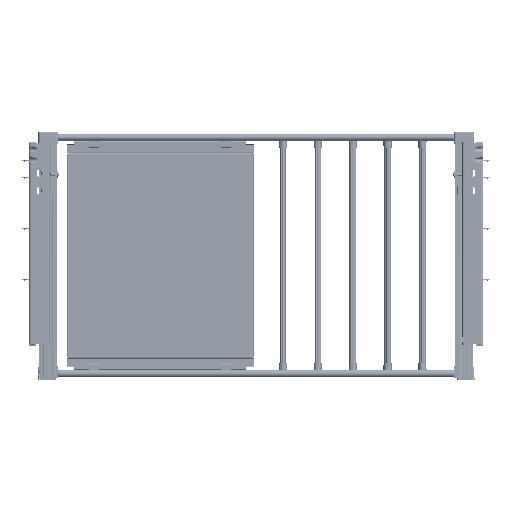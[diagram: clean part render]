
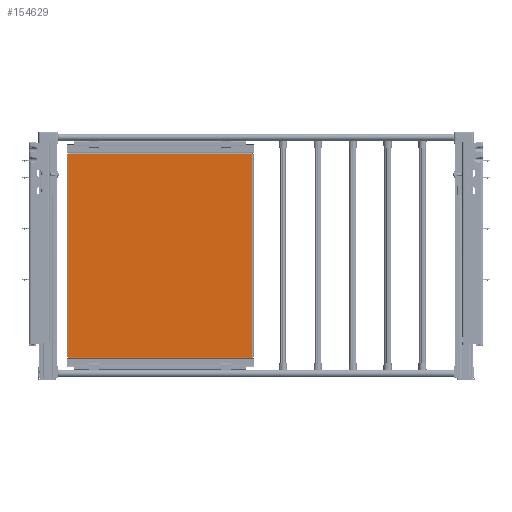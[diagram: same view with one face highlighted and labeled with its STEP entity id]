
A CAD part, front view. The second image highlights one B-rep face of the part: STEP entity #154629.
In plain terms, the highlighted planar face has unit normal (0, -1, 0).
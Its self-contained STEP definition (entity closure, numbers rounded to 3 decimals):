
#2067 = PLANE ( 'NONE',  #54507 ) ;
#15121 = CARTESIAN_POINT ( 'NONE',  ( -192.5, -1., -174.5 ) ) ;
#22617 = VERTEX_POINT ( 'NONE', #191703 ) ;
#24594 = CARTESIAN_POINT ( 'NONE',  ( -192.5, -1., 174.5 ) ) ;
#25075 = EDGE_LOOP ( 'NONE', ( #96345, #124765, #141486, #254619 ) ) ;
#37361 = DIRECTION ( 'NONE',  ( 0., 0., -1. ) ) ;
#53476 = EDGE_CURVE ( 'NONE', #121875, #236076, #53670, .T. ) ;
#53670 = LINE ( 'NONE', #173627, #161560 ) ;
#54507 = AXIS2_PLACEMENT_3D ( 'NONE', #197698, #115614, #37361 ) ;
#61609 = EDGE_CURVE ( 'NONE', #188318, #121875, #113859, .T. ) ;
#63546 = EDGE_CURVE ( 'NONE', #236076, #22617, #192456, .T. ) ;
#66885 = EDGE_CURVE ( 'NONE', #188318, #22617, #107891, .T. ) ;
#69613 = CARTESIAN_POINT ( 'NONE',  ( 192.5, -1., 174.5 ) ) ;
#75543 = VECTOR ( 'NONE', #151696, 1000. ) ;
#76258 = CARTESIAN_POINT ( 'NONE',  ( 192.5, -1., 174.5 ) ) ;
#80299 = FACE_OUTER_BOUND ( 'NONE', #25075, .T. ) ;
#96345 = ORIENTED_EDGE ( 'NONE', *, *, #61609, .T. ) ;
#107891 = LINE ( 'NONE', #203160, #210441 ) ;
#113859 = LINE ( 'NONE', #69613, #75543 ) ;
#114945 = DIRECTION ( 'NONE',  ( 0., 0., -1. ) ) ;
#115614 = DIRECTION ( 'NONE',  ( 0., -1., 0. ) ) ;
#121875 = VERTEX_POINT ( 'NONE', #24594 ) ;
#124765 = ORIENTED_EDGE ( 'NONE', *, *, #53476, .T. ) ;
#141486 = ORIENTED_EDGE ( 'NONE', *, *, #63546, .T. ) ;
#151696 = DIRECTION ( 'NONE',  ( -1., 0., 0. ) ) ;
#154629 = ADVANCED_FACE ( 'NONE', ( #80299 ), #2067, .T. ) ;
#161560 = VECTOR ( 'NONE', #114945, 1000. ) ;
#173627 = CARTESIAN_POINT ( 'NONE',  ( -192.5, -1., 177. ) ) ;
#187428 = DIRECTION ( 'NONE',  ( 0., 0., -1. ) ) ;
#188318 = VERTEX_POINT ( 'NONE', #76258 ) ;
#191703 = CARTESIAN_POINT ( 'NONE',  ( 192.5, -1., -174.5 ) ) ;
#192456 = LINE ( 'NONE', #15121, #209355 ) ;
#197698 = CARTESIAN_POINT ( 'NONE',  ( -194., -1., 177. ) ) ;
#203160 = CARTESIAN_POINT ( 'NONE',  ( 192.5, -1., 177. ) ) ;
#209355 = VECTOR ( 'NONE', #253731, 1000. ) ;
#210441 = VECTOR ( 'NONE', #187428, 1000. ) ;
#210602 = CARTESIAN_POINT ( 'NONE',  ( -192.5, -1., -174.5 ) ) ;
#236076 = VERTEX_POINT ( 'NONE', #210602 ) ;
#253731 = DIRECTION ( 'NONE',  ( 1., 0., 0. ) ) ;
#254619 = ORIENTED_EDGE ( 'NONE', *, *, #66885, .F. ) ;
